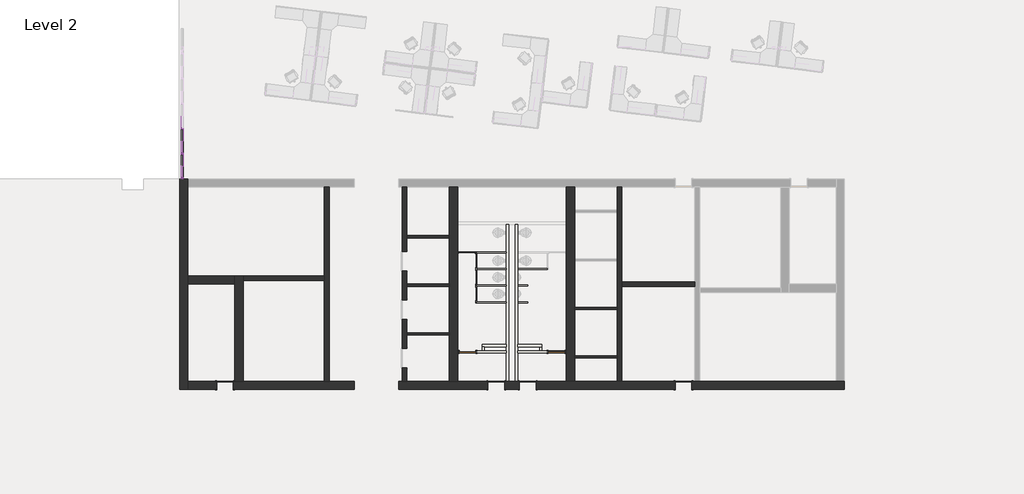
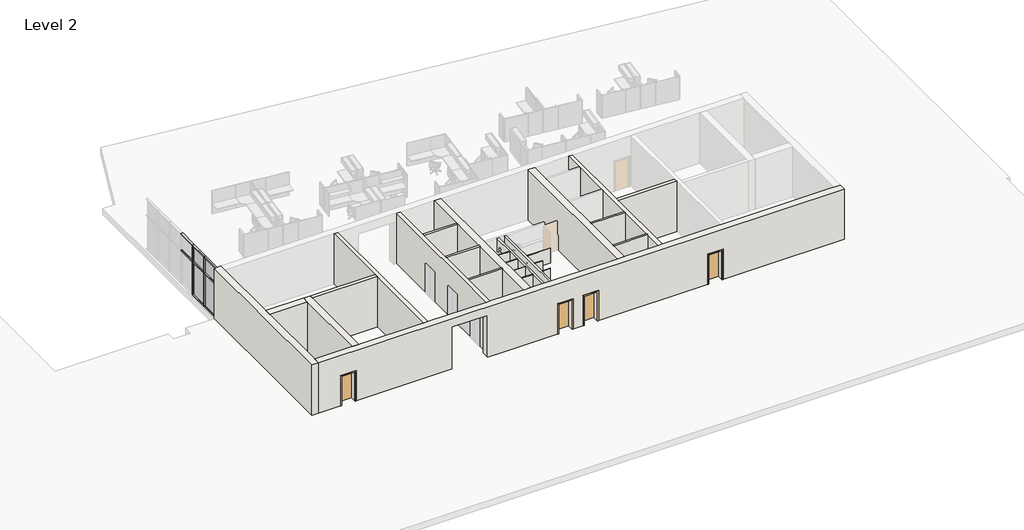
# One storey, part 1 of 7: 33 walls, 14 members, 10 doors, 4 plates.
"""IFC4 building model written with IfcOpenShell, lengths in millimetres."""

from ifc_helpers import new_model, si_unit, frame, origin, place, context, project, spatial, polyline, outline, extrude, faceted_brep, transform, mapped, element, save
from components import door_3c99239a, door_aec9db07, door_a3eb833a, door_a1797ceb, toilet_partitions_2_10_251e7a51, door_871a7840, member_9597caa3, member_b2bde9e6, member_c64c2408, member_866a01fa, member_13474e0d, member_fbf8c6f0, member_d7472725, system_panel_glazed_7f340023, system_panel_glazed_f79f5f4b, system_panel_glazed_02b69887, system_panel_glazed_e5c5d69c

model = new_model("IFC4")

# Units and contexts
model_context = context("Model", 3, world=origin())
ifc_project = project(units=[si_unit("LENGTHUNIT", "METRE", prefix="MILLI")], contexts=[model_context])

# Site, building, storey
site = spatial("IfcSite", under=ifc_project)
building = spatial("IfcBuilding", under=site)
storey = spatial("IfcBuildingStorey", under=building, Name="Level 2", Elevation=3657.6)

# Doors
placement = place(None, origin())
door_shape = door_3c99239a(model_context)
element("IfcDoor", 1, ObjectType="Single-Flush : 36\" x 84\"", at=placement, inside=storey, context=model_context, shape_type="MappedRepresentation", body=[
    mapped(door_shape, transform((-30700.0713641, -14594.8103492, 3657.6), x_axis=(1.0, 0.0, 0.0), y_axis=(0.0, 1.0, 0.0), z_axis=(0.0, 0.0, 1.0))),
])
element("IfcDoor", 2, ObjectType="Single-Flush : 36\" x 84\"", at=placement, inside=storey, context=model_context, shape_type="MappedRepresentation", body=[
    mapped(door_shape, transform((-5525.0427926, -14594.8103492, 3657.6), x_axis=(1.0, 0.0, 0.0), y_axis=(0.0, 1.0, 0.0), z_axis=(0.0, 0.0, 1.0))),
])
element("IfcDoor", 3, ObjectType="Single-Flush : 36\" x 84\"", at=placement, inside=storey, context=model_context, shape_type="MappedRepresentation", body=[
    mapped(door_shape, transform((-15804.7856498, -14594.8103492, 3657.6), x_axis=(1.0, 0.0, 0.0), y_axis=(0.0, 1.0, 0.0), z_axis=(0.0, 0.0, 1.0))),
])
door_2_shape = door_aec9db07(model_context)
element("IfcDoor", 4, ObjectType="Single-Flush : 36\" x 84\"", at=placement, inside=storey, context=model_context, shape_type="MappedRepresentation", body=[
    mapped(door_2_shape, transform((-14077.5856498, -14594.8103492, 3657.6), x_axis=(-1.0, 0.0, 0.0), y_axis=(0.0, -1.0, 0.0), z_axis=(0.0, 0.0, 1.0))),
])
door_3_shape = door_a3eb833a(model_context)
element("IfcDoor", 5, ObjectType="Single-Flush : 36\" x 84\"", at=placement, inside=storey, context=model_context, shape_type="MappedRepresentation", body=[
    mapped(door_3_shape, transform((-12487.8428559, -12753.3103492, 3657.6), x_axis=(1.0, 0.0, 0.0), y_axis=(0.0, 1.0, 0.0), z_axis=(0.0, 0.0, 1.0))),
])
door_4_shape = door_a1797ceb(model_context)
element("IfcDoor", 6, ObjectType="Single-Flush : 36\" x 84\"", at=placement, inside=storey, context=model_context, shape_type="MappedRepresentation", body=[
    mapped(door_4_shape, transform((-17394.5284437, -12753.3103492, 3657.6), x_axis=(-1.0, 0.0, 0.0), y_axis=(0.0, -1.0, 0.0), z_axis=(0.0, 0.0, 1.0))),
])
toilet_partitions_2_10_shape = toilet_partitions_2_10_251e7a51(model_context)
element("IfcDoor", 7, ObjectType="toilet Partitions : 2'10", at=placement, inside=storey, context=model_context, shape_type="MappedRepresentation", body=[
    mapped(toilet_partitions_2_10_shape, transform((-17432.6284437, -7282.7853492, 3657.6), x_axis=(-1.0, 0.0, 0.0), y_axis=(0.0, -1.0, 0.0), z_axis=(0.0, 0.0, 1.0))),
])
door_5_shape = door_871a7840(model_context)
element("IfcDoor", 8, ObjectType="toilet Partitions : 2'5\"", at=placement, inside=storey, context=model_context, shape_type="MappedRepresentation", body=[
    mapped(door_5_shape, transform((-16896.9856498, -9568.7853492, 3657.6), x_axis=(0.0, -1.0, 0.0), y_axis=(1.0, 0.0, 0.0), z_axis=(0.0, 0.0, 1.0))),
])
element("IfcDoor", 9, ObjectType="toilet Partitions : 2'5\"", at=placement, inside=storey, context=model_context, shape_type="MappedRepresentation", body=[
    mapped(door_5_shape, transform((-16896.9856498, -7739.9853492, 3657.6), x_axis=(0.0, -1.0, 0.0), y_axis=(1.0, 0.0, 0.0), z_axis=(0.0, 0.0, 1.0))),
])
element("IfcDoor", 10, ObjectType="toilet Partitions : 2'5\"", at=placement, inside=storey, context=model_context, shape_type="MappedRepresentation", body=[
    mapped(door_5_shape, transform((-16896.9856498, -8654.3853492, 3657.6), x_axis=(0.0, -1.0, 0.0), y_axis=(1.0, 0.0, 0.0), z_axis=(0.0, 0.0, 1.0))),
])

# Members
member_shape = member_9597caa3(model_context)
element("IfcMember", 11, ObjectType="Rectangular Mullion : 2.5\" x 5\" rectangular", at=placement, inside=storey, context=model_context, shape_type="MappedRepresentation", body=[
    mapped(member_shape, transform((-33055.0142212, -486.5214603, 3721.1), x_axis=(0.0, -1.0, 0.0), y_axis=(-1.0, 0.0, 0.0), z_axis=(0.0, 0.0, -1.0))),
])
element("IfcMember", 12, ObjectType="Rectangular Mullion : 2.5\" x 5\" rectangular", at=placement, inside=storey, context=model_context, shape_type="MappedRepresentation", body=[
    mapped(member_shape, transform((-33055.0142212, -1863.7659048, 3721.1), x_axis=(0.0, -1.0, 0.0), y_axis=(-1.0, 0.0, 0.0), z_axis=(0.0, 0.0, -1.0))),
])
member_2_shape = member_b2bde9e6(model_context)
element("IfcMember", 13, ObjectType="Rectangular Mullion : 2.5\" x 5\" rectangular", at=placement, inside=storey, context=model_context, shape_type="MappedRepresentation", body=[
    mapped(member_2_shape, transform((-33055.0142212, -3241.0103492, 3721.1), x_axis=(0.0, -1.0, 0.0), y_axis=(-1.0, 0.0, 0.0), z_axis=(0.0, 0.0, -1.0))),
])
member_3_shape = member_c64c2408(model_context)
element("IfcMember", 14, ObjectType="Rectangular Mullion : 2.5\" x 5\" rectangular", at=placement, inside=storey, context=model_context, shape_type="MappedRepresentation", body=[
    mapped(member_3_shape, transform((-33055.0142212, -3241.0103492, 7315.2), x_axis=(0.0, 0.0, 1.0), y_axis=(-1.0, 0.0, 0.0), z_axis=(0.0, -1.0, 0.0))),
])
element("IfcMember", 15, ObjectType="Rectangular Mullion : 2.5\" x 5\" rectangular", at=placement, inside=storey, context=model_context, shape_type="MappedRepresentation", body=[
    mapped(member_3_shape, transform((-33055.0142212, -486.5214603, 7315.2), x_axis=(0.0, 0.0, 1.0), y_axis=(-1.0, 0.0, 0.0), z_axis=(0.0, -1.0, 0.0))),
])
element("IfcMember", 16, ObjectType="Rectangular Mullion : 2.5\" x 5\" rectangular", at=placement, inside=storey, context=model_context, shape_type="MappedRepresentation", body=[
    mapped(member_3_shape, transform((-33055.0142212, -1863.7659048, 7315.2), x_axis=(0.0, 0.0, 1.0), y_axis=(-1.0, 0.0, 0.0), z_axis=(0.0, -1.0, 0.0))),
])
element("IfcMember", 17, ObjectType="Rectangular Mullion : 2.5\" x 5\" rectangular", at=placement, inside=storey, context=model_context, shape_type="MappedRepresentation", body=[
    mapped(member_3_shape, transform((-33055.0142212, -486.5214603, 3657.6), x_axis=(0.0, 0.0, -1.0), y_axis=(-1.0, 0.0, 0.0), z_axis=(0.0, 1.0, 0.0))),
])
element("IfcMember", 18, ObjectType="Rectangular Mullion : 2.5\" x 5\" rectangular", at=placement, inside=storey, context=model_context, shape_type="MappedRepresentation", body=[
    mapped(member_3_shape, transform((-33055.0142212, -1863.7659048, 3657.6), x_axis=(0.0, 0.0, -1.0), y_axis=(-1.0, 0.0, 0.0), z_axis=(0.0, 1.0, 0.0))),
])
member_4_shape = member_866a01fa(model_context)
element("IfcMember", 19, ObjectType="Rectangular Mullion : 2.5\" x 5\" rectangular", at=placement, inside=storey, context=model_context, shape_type="MappedRepresentation", body=[
    mapped(member_4_shape, transform((-33055.0142212, -486.5214603, 6127.75), x_axis=(0.0, -1.0, 0.0), y_axis=(-1.0, 0.0, 0.0), z_axis=(0.0, 0.0, -1.0))),
])
element("IfcMember", 20, ObjectType="Rectangular Mullion : 2.5\" x 5\" rectangular", at=placement, inside=storey, context=model_context, shape_type="MappedRepresentation", body=[
    mapped(member_4_shape, transform((-33055.0142212, -1863.7659048, 6127.75), x_axis=(0.0, -1.0, 0.0), y_axis=(-1.0, 0.0, 0.0), z_axis=(0.0, 0.0, -1.0))),
])
member_5_shape = member_13474e0d(model_context)
element("IfcMember", 21, ObjectType="Rectangular Mullion : 2.5\" x 5\" rectangular", at=placement, inside=storey, context=model_context, shape_type="MappedRepresentation", body=[
    mapped(member_5_shape, transform((-33055.0142212, -486.5214603, 6096.0), x_axis=(0.0, 0.0, 1.0), y_axis=(-1.0, 0.0, 0.0), z_axis=(0.0, -1.0, 0.0))),
])
element("IfcMember", 22, ObjectType="Rectangular Mullion : 2.5\" x 5\" rectangular", at=placement, inside=storey, context=model_context, shape_type="MappedRepresentation", body=[
    mapped(member_5_shape, transform((-33055.0142212, -1863.7659048, 6096.0), x_axis=(0.0, 0.0, 1.0), y_axis=(-1.0, 0.0, 0.0), z_axis=(0.0, -1.0, 0.0))),
])
member_6_shape = member_fbf8c6f0(model_context)
element("IfcMember", 23, ObjectType="Rectangular Mullion : 2.5\" x 5\" rectangular", at=placement, inside=storey, context=model_context, shape_type="MappedRepresentation", body=[
    mapped(member_6_shape, transform((-33055.0142212, -3177.5103492, 6096.0), x_axis=(0.0, 0.0, 1.0), y_axis=(-1.0, 0.0, 0.0), z_axis=(0.0, -1.0, 0.0))),
])
member_7_shape = member_d7472725(model_context)
element("IfcMember", 24, ObjectType="Rectangular Mullion : 2.5\" x 5\" rectangular", at=placement, inside=storey, context=model_context, shape_type="MappedRepresentation", body=[
    mapped(member_7_shape, transform((-33055.0142212, -3241.0103492, 6096.0), x_axis=(0.0, -1.0, 0.0), y_axis=(-1.0, 0.0, 0.0), z_axis=(0.0, 0.0, -1.0))),
])

# Plates
system_panel_glazed_shape = system_panel_glazed_7f340023(model_context)
element("IfcPlate", 25, ObjectType="System Panel : Glazed", at=placement, inside=storey, context=model_context, shape_type="MappedRepresentation", body=[
    mapped(system_panel_glazed_shape, transform((-33055.0142212, -2536.513127, 3721.1), x_axis=(0.0, -1.0, 0.0), y_axis=(1.0, 0.0, 0.0), z_axis=(0.0, 0.0, 1.0))),
])
system_panel_glazed_2_shape = system_panel_glazed_f79f5f4b(model_context)
element("IfcPlate", 26, ObjectType="System Panel : Glazed", at=placement, inside=storey, context=model_context, shape_type="MappedRepresentation", body=[
    mapped(system_panel_glazed_2_shape, transform((-33055.0142212, -1175.1436825, 3721.1), x_axis=(0.0, -1.0, 0.0), y_axis=(1.0, 0.0, 0.0), z_axis=(0.0, 0.0, 1.0))),
])
system_panel_glazed_3_shape = system_panel_glazed_02b69887(model_context)
element("IfcPlate", 27, ObjectType="System Panel : Glazed", at=placement, inside=storey, context=model_context, shape_type="MappedRepresentation", body=[
    mapped(system_panel_glazed_3_shape, transform((-33055.0142212, -2536.513127, 6127.75), x_axis=(0.0, -1.0, 0.0), y_axis=(1.0, 0.0, 0.0), z_axis=(0.0, 0.0, 1.0))),
])
system_panel_glazed_4_shape = system_panel_glazed_e5c5d69c(model_context)
element("IfcPlate", 28, ObjectType="System Panel : Glazed", at=placement, inside=storey, context=model_context, shape_type="MappedRepresentation", body=[
    mapped(system_panel_glazed_4_shape, transform((-33055.0142212, -1175.1436825, 6127.75), x_axis=(0.0, -1.0, 0.0), y_axis=(1.0, 0.0, 0.0), z_axis=(0.0, 0.0, 1.0))),
])

# Walls
element("IfcWall", 29, ObjectType="Core-shaft 10\" Concrete", at=placement, inside=storey, context=model_context, shape_type="SweptSolid", body=[
    extrude(outline(polyline([(-14366.2103492, 7315.2), (-3698.2103492, 7315.2), (-3698.2103492, 3657.6), (-7222.4603492, 3657.6), (-7222.4603492, 5816.6), (-8301.9603492, 5816.6), (-8301.9603492, 3657.6), (-9889.4603492, 3657.6), (-9889.4603492, 5816.6), (-10968.9603492, 5816.6), (-10968.9603492, 3657.6), (-12556.4603492, 3657.6), (-12556.4603492, 5816.6), (-13635.9603492, 5816.6), (-13635.9603492, 3657.6), (-14366.2103492, 3657.6), (-14366.2103492, 7315.2)])), frame((-20979.1285069, 0.0, 0.0), z_axis=(1.0, 0.0, 0.0), x_axis=(0.0, 1.0, 0.0)), (0.0, 0.0, 1.0), 254.0),
])
element("IfcWall", 30, ObjectType="Core-shaft 10\" Concrete", at=placement, inside=storey, context=model_context, shape_type="Brep", body=[
    faceted_brep([(-24992.3285069, -14366.2103492, 3657.6), (-24992.3285069, -3698.2103492, 3657.6), (-24992.3285069, -3698.2103492, 7315.2), (-24992.3285069, -14366.2103492, 7315.2), (-25246.3285069, -14366.2103492, 3657.6), (-25246.3285069, -14366.2103492, 7315.2), (-25246.3285069, -8829.0103492, 7315.2), (-25246.3285069, -8575.0103492, 7315.2), (-25246.3285069, -3698.2103492, 7315.2), (-25246.3285069, -3698.2103492, 3657.6), (-25246.3285069, -8575.0103492, 3657.6), (-25246.3285069, -8829.0103492, 3657.6)], [[[0, 1, 2, 3]], [[4, 5, 6, 7, 8, 9, 10, 11]], [[1, 0, 4, 11, 10, 9]], [[3, 2, 8, 7, 6, 5]], [[0, 3, 5, 4]], [[2, 1, 9, 8]]]),
])
element("IfcWall", 31, ObjectType="Core-shaft 10\" Concrete", at=placement, inside=storey, context=model_context, shape_type="SweptSolid", body=[
    extrude(outline(polyline([(-25246.3285069, -8829.0103492), (-29709.4713641, -8829.0103492), (-29709.4713641, -8575.0103492), (-25246.3285069, -8575.0103492), (-25246.3285069, -8829.0103492)])), frame((0.0, 0.0, 3657.6), z_axis=(0.0, 0.0, 1.0), x_axis=(1.0, 0.0, 0.0)), (0.0, 0.0, 1.0), 3657.6),
])
element("IfcWall", 32, ObjectType="Core-shaft 10\" Concrete", at=placement, inside=storey, context=model_context, shape_type="SweptSolid", body=[
    extrude(outline(polyline([(-8903.2427926, -3698.2103492), (-8903.2427926, -14366.2103492), (-9157.2427926, -14366.2103492), (-9157.2427926, -3698.2103492), (-8903.2427926, -3698.2103492)])), frame((0.0, 0.0, 3657.6), z_axis=(0.0, 0.0, 1.0), x_axis=(1.0, 0.0, 0.0)), (0.0, 0.0, 1.0), 3657.6),
])
element("IfcWall", 33, ObjectType="Core-shaft 10\" Concrete", at=placement, inside=storey, context=model_context, shape_type="SweptSolid", body=[
    extrude(outline(polyline([(-8903.2427926, -8905.2103492), (-4890.0427926, -8905.2103492), (-4890.0427926, -9159.2103492), (-8903.2427926, -9159.2103492), (-8903.2427926, -8905.2103492)])), frame((0.0, 0.0, 3657.6), z_axis=(0.0, 0.0, 1.0), x_axis=(1.0, 0.0, 0.0)), (0.0, 0.0, 1.0), 3657.6),
])
element("IfcWall", 34, ObjectType="Core-shaft 18\" Concrete", at=placement, inside=storey, context=model_context, shape_type="Brep", body=[
    faceted_brep([(-14534.7856498, -14366.2103492, 5791.2), (-14534.7856498, -14366.2103492, 3657.6), (-15347.5856498, -14366.2103492, 3657.6), (-15347.5856498, -14366.2103492, 5791.2), (-16261.9856498, -14366.2103492, 5791.2), (-16261.9856498, -14366.2103492, 3657.6), (-17927.9284437, -14366.2103492, 3657.6), (-18385.1284437, -14366.2103492, 3657.6), (-20725.1285069, -14366.2103492, 3657.6), (-20979.1285069, -14366.2103492, 3657.6), (-21167.8142212, -14366.2103492, 3657.6), (-21167.8142212, -14366.2103492, 6705.6), (-23606.2142212, -14366.2103492, 6705.6), (-23606.2142212, -14366.2103492, 3657.6), (-24992.3285069, -14366.2103492, 3657.6), (-25246.3285069, -14366.2103492, 3657.6), (-29709.4713641, -14366.2103492, 3657.6), (-30166.6713641, -14366.2103492, 3657.6), (-30242.8713641, -14366.2103492, 3657.6), (-30242.8713641, -14366.2103492, 5791.2), (-31157.2713641, -14366.2103492, 5791.2), (-31157.2713641, -14366.2103492, 3657.6), (-32750.2142212, -14366.2103492, 3657.6), (-32750.2142212, -14366.2103492, 7315.2), (-30166.6713641, -14366.2103492, 7315.2), (-29709.4713641, -14366.2103492, 7315.2), (-25246.3285069, -14366.2103492, 7315.2), (-24992.3285069, -14366.2103492, 7315.2), (-20979.1285069, -14366.2103492, 7315.2), (-20725.1285069, -14366.2103492, 7315.2), (-18385.1284437, -14366.2103492, 7315.2), (-17927.9284437, -14366.2103492, 7315.2), (-11954.4428559, -14366.2103492, 7315.2), (-11497.2428559, -14366.2103492, 7315.2), (-9157.2427926, -14366.2103492, 7315.2), (-8903.2427926, -14366.2103492, 7315.2), (-4890.0427926, -14366.2103492, 7315.2), (-4636.0427926, -14366.2103492, 7315.2), (2867.8429217, -14366.2103492, 7315.2), (3325.0429217, -14366.2103492, 7315.2), (3325.0429217, -14366.2103492, 3657.6), (2867.8429217, -14366.2103492, 3657.6), (-4636.0427926, -14366.2103492, 3657.6), (-4890.0427926, -14366.2103492, 3657.6), (-5067.8427926, -14366.2103492, 3657.6), (-5067.8427926, -14366.2103492, 5791.2), (-5982.2427926, -14366.2103492, 5791.2), (-5982.2427926, -14366.2103492, 3657.6), (-8903.2427926, -14366.2103492, 3657.6), (-9157.2427926, -14366.2103492, 3657.6), (-11497.2428559, -14366.2103492, 3657.6), (-11954.4428559, -14366.2103492, 3657.6), (-13620.3856498, -14366.2103492, 3657.6), (-13620.3856498, -14366.2103492, 5791.2), (-15347.5856498, -14823.4103492, 3657.6), (-14534.7856498, -14823.4103492, 3657.6), (-14534.7856498, -14823.4103492, 5791.2), (-13620.3856498, -14823.4103492, 5791.2), (-13620.3856498, -14823.4103492, 3657.6), (-5982.2427926, -14823.4103492, 3657.6), (-5982.2427926, -14823.4103492, 5791.2), (-5067.8427926, -14823.4103492, 5791.2), (-5067.8427926, -14823.4103492, 3657.6), (3325.0429217, -14823.4103492, 3657.6), (3325.0429217, -14823.4103492, 7315.2), (-32750.2142212, -14823.4103492, 7315.2), (-32750.2142212, -14823.4103492, 3657.6), (-31157.2713641, -14823.4103492, 3657.6), (-31157.2713641, -14823.4103492, 5791.2), (-30242.8713641, -14823.4103492, 5791.2), (-30242.8713641, -14823.4103492, 3657.6), (-23606.2142212, -14823.4103492, 3657.6), (-23606.2142212, -14823.4103492, 6705.6), (-21167.8142212, -14823.4103492, 6705.6), (-21167.8142212, -14823.4103492, 3657.6), (-16261.9856498, -14823.4103492, 3657.6), (-16261.9856498, -14823.4103492, 5791.2), (-15347.5856498, -14823.4103492, 5791.2)], [[[0, 1, 2, 3, 4, 5, 6, 7, 8, 9, 10, 11, 12, 13, 14, 15, 16, 17, 18, 19, 20, 21, 22, 23, 24, 25, 26, 27, 28, 29, 30, 31, 32, 33, 34, 35, 36, 37, 38, 39, 40, 41, 42, 43, 44, 45, 46, 47, 48, 49, 50, 51, 52, 53]], [[54, 55, 56, 57, 58, 59, 60, 61, 62, 63, 64, 65, 66, 67, 68, 69, 70, 71, 72, 73, 74, 75, 76, 77]], [[67, 66, 22, 21]], [[71, 70, 18, 17, 16, 15, 14, 13]], [[63, 62, 44, 43, 42, 41, 40]], [[75, 74, 10, 9, 8, 7, 6, 5]], [[2, 1, 55, 54]], [[52, 51, 50, 49, 48, 47, 59, 58]], [[39, 38, 37, 36, 35, 34, 33, 32, 31, 30, 29, 28, 27, 26, 25, 24, 23, 65, 64]], [[11, 73, 72, 12]], [[73, 11, 10, 74]], [[12, 72, 71, 13]], [[19, 18, 70, 69]], [[20, 19, 69, 68]], [[21, 20, 68, 67]], [[45, 44, 62, 61]], [[46, 45, 61, 60]], [[47, 46, 60, 59]], [[40, 39, 64, 63]], [[23, 22, 66, 65]], [[3, 2, 54, 77]], [[4, 3, 77, 76]], [[5, 4, 76, 75]], [[56, 55, 1, 0]], [[57, 56, 0, 53]], [[58, 57, 53, 52]]]),
])
element("IfcWall", 35, ObjectType="Core-shaft 18\" Concrete", at=placement, inside=storey, context=model_context, shape_type="Brep", body=[
    faceted_brep([(-32750.2142212, -14823.4103492, 3657.6), (-32750.2142212, -14366.2103492, 3657.6), (-32750.2142212, -9032.2103492, 3657.6), (-32750.2142212, -8575.0103492, 3657.6), (-32750.2142212, -3698.2103492, 3657.6), (-32750.2142212, -3241.0103492, 3657.6), (-32750.2142212, -3241.0103492, 7315.2), (-32750.2142212, -3698.2103492, 7315.2), (-32750.2142212, -8575.0103492, 7315.2), (-32750.2142212, -9032.2103492, 7315.2), (-32750.2142212, -14366.2103492, 7315.2), (-32750.2142212, -14823.4103492, 7315.2), (-33207.4142212, -14823.4103492, 3657.6), (-33207.4142212, -14823.4103492, 7315.2), (-33207.4142212, -3241.0103492, 7315.2), (-33207.4142212, -3241.0103492, 3657.6)], [[[0, 1, 2, 3, 4, 5, 6, 7, 8, 9, 10, 11]], [[12, 13, 14, 15]], [[5, 4, 3, 2, 1, 0, 12, 15]], [[11, 10, 9, 8, 7, 6, 14, 13]], [[0, 11, 13, 12]], [[6, 5, 15, 14]]]),
])
element("IfcWall", 36, ObjectType="Core-shaft 18\" Concrete", at=placement, inside=storey, context=model_context, shape_type="SweptSolid", body=[
    extrude(outline(polyline([(-18385.1284437, -14366.2103492), (-18385.1284437, -3698.2103492), (-17927.9284437, -3698.2103492), (-17927.9284437, -14366.2103492), (-18385.1284437, -14366.2103492)])), frame((0.0, 0.0, 3657.6), z_axis=(0.0, 0.0, 1.0), x_axis=(1.0, 0.0, 0.0)), (0.0, 0.0, 1.0), 3657.6),
])
element("IfcWall", 37, ObjectType="Core-shaft 18\" Concrete", at=placement, inside=storey, context=model_context, shape_type="Brep", body=[
    faceted_brep([(-29709.4713641, -14366.2103492, 3657.6), (-29709.4713641, -8829.0103492, 3657.6), (-29709.4713641, -8575.0103492, 3657.6), (-29709.4713641, -8575.0103492, 7315.2), (-29709.4713641, -8829.0103492, 7315.2), (-29709.4713641, -14366.2103492, 7315.2), (-30166.6713641, -14366.2103492, 3657.6), (-30166.6713641, -14366.2103492, 7315.2), (-30166.6713641, -9032.2103492, 7315.2), (-30166.6713641, -8575.0103492, 7315.2), (-30166.6713641, -8575.0103492, 3657.6), (-30166.6713641, -9032.2103492, 3657.6)], [[[0, 1, 2, 3, 4, 5]], [[6, 7, 8, 9, 10, 11]], [[2, 1, 0, 6, 11, 10]], [[5, 4, 3, 9, 8, 7]], [[3, 2, 10, 9]], [[0, 5, 7, 6]]]),
])
element("IfcWall", 38, ObjectType="Core-shaft 18\" Concrete", at=placement, inside=storey, context=model_context, shape_type="SweptSolid", body=[
    extrude(outline(polyline([(-32750.2142212, -8575.0103492), (-30166.6713641, -8575.0103492), (-30166.6713641, -9032.2103492), (-32750.2142212, -9032.2103492), (-32750.2142212, -8575.0103492)])), frame((0.0, 0.0, 3657.6), z_axis=(0.0, 0.0, 1.0), x_axis=(1.0, 0.0, 0.0)), (0.0, 0.0, 1.0), 3657.6),
])
element("IfcWall", 39, ObjectType="Core-shaft 18\" Concrete", at=placement, inside=storey, context=model_context, shape_type="SweptSolid", body=[
    extrude(outline(polyline([(-11954.4428559, -14366.2103492), (-11954.4428559, -3698.2103492), (-11497.2428559, -3698.2103492), (-11497.2428559, -14366.2103492), (-11954.4428559, -14366.2103492)])), frame((0.0, 0.0, 3657.6), z_axis=(0.0, 0.0, 1.0), x_axis=(1.0, 0.0, 0.0)), (0.0, 0.0, 1.0), 3657.6),
])
element("IfcWall", 40, ObjectType="Generic - 5\"", at=placement, inside=storey, context=model_context, shape_type="SweptSolid", body=[
    extrude(outline(polyline([(-18385.1284437, -11826.2103492), (-20725.1285069, -11826.2103492), (-20725.1285069, -11699.2103492), (-18385.1284437, -11699.2103492), (-18385.1284437, -11826.2103492)])), frame((0.0, 0.0, 3657.6), z_axis=(0.0, 0.0, 1.0), x_axis=(1.0, 0.0, 0.0)), (0.0, 0.0, 1.0), 3657.6),
])
element("IfcWall", 41, ObjectType="Generic - 5\"", at=placement, inside=storey, context=model_context, shape_type="SweptSolid", body=[
    extrude(outline(polyline([(-18385.1284437, -9159.2103492), (-20725.1285069, -9159.2103492), (-20725.1285069, -9032.2103492), (-18385.1284437, -9032.2103492), (-18385.1284437, -9159.2103492)])), frame((0.0, 0.0, 3657.6), z_axis=(0.0, 0.0, 1.0), x_axis=(1.0, 0.0, 0.0)), (0.0, 0.0, 1.0), 3657.6),
])
element("IfcWall", 42, ObjectType="Generic - 5\"", at=placement, inside=storey, context=model_context, shape_type="SweptSolid", body=[
    extrude(outline(polyline([(-18385.1284437, -6492.2103492), (-20725.1285069, -6492.2103492), (-20725.1285069, -6365.2103492), (-18385.1284437, -6365.2103492), (-18385.1284437, -6492.2103492)])), frame((0.0, 0.0, 3657.6), z_axis=(0.0, 0.0, 1.0), x_axis=(1.0, 0.0, 0.0)), (0.0, 0.0, 1.0), 3657.6),
])
element("IfcWall", 43, ObjectType="Generic - 5\"", at=placement, inside=storey, context=model_context, shape_type="SweptSolid", body=[
    extrude(outline(polyline([(-11497.2428559, -10302.2103492), (-9157.2427926, -10302.2103492), (-9157.2427926, -10429.2103492), (-11497.2428559, -10429.2103492), (-11497.2428559, -10302.2103492)])), frame((0.0, 0.0, 3657.6), z_axis=(0.0, 0.0, 1.0), x_axis=(1.0, 0.0, 0.0)), (0.0, 0.0, 1.0), 3657.6),
])
element("IfcWall", 44, ObjectType="Generic - 5\"", at=placement, inside=storey, context=model_context, shape_type="SweptSolid", body=[
    extrude(outline(polyline([(-11497.2428559, -12969.2103492), (-9157.2427926, -12969.2103492), (-9157.2427926, -13096.2103492), (-11497.2428559, -13096.2103492), (-11497.2428559, -12969.2103492)])), frame((0.0, 0.0, 3657.6), z_axis=(0.0, 0.0, 1.0), x_axis=(1.0, 0.0, 0.0)), (0.0, 0.0, 1.0), 3657.6),
])
element("IfcWall", 45, ObjectType="Interior - Generic - 5\"", at=placement, inside=storey, context=model_context, shape_type="Brep", body=[
    faceted_brep([(-15131.6856498, -14366.2103492, 3657.6), (-15131.6856498, -5742.9103492, 3657.6), (-15131.6856498, -5742.9103492, 4724.4), (-15131.6856498, -14366.2103492, 4724.4), (-15258.6856498, -14366.2103492, 3657.6), (-15258.6856498, -14366.2103492, 4724.4), (-15258.6856498, -12816.8103492, 4724.4), (-15258.6856498, -12689.8103492, 4724.4), (-15258.6856498, -12480.2603492, 4724.4), (-15258.6856498, -12353.2603492, 4724.4), (-15258.6856498, -10051.3853492, 4724.4), (-15258.6856498, -10000.5853492, 4724.4), (-15258.6856498, -9136.9853492, 4724.4), (-15258.6856498, -9086.1853492, 4724.4), (-15258.6856498, -8222.5853492, 4724.4), (-15258.6856498, -8171.7853492, 4724.4), (-15258.6856498, -7308.1853492, 4724.4), (-15258.6856498, -7257.3853492, 4724.4), (-15258.6856498, -5742.9103492, 4724.4), (-15258.6856498, -5742.9103492, 3657.6), (-15258.6856498, -7257.3853492, 3657.6), (-15258.6856498, -7308.1853492, 3657.6), (-15258.6856498, -8171.7853492, 3657.6), (-15258.6856498, -8222.5853492, 3657.6), (-15258.6856498, -9086.1853492, 3657.6), (-15258.6856498, -9136.9853492, 3657.6), (-15258.6856498, -10000.5853492, 3657.6), (-15258.6856498, -10051.3853492, 3657.6), (-15258.6856498, -12353.2603492, 3657.6), (-15258.6856498, -12480.2603492, 3657.6), (-15258.6856498, -12689.8103492, 3657.6), (-15258.6856498, -12816.8103492, 3657.6)], [[[0, 1, 2, 3]], [[4, 5, 6, 7, 8, 9, 10, 11, 12, 13, 14, 15, 16, 17, 18, 19, 20, 21, 22, 23, 24, 25, 26, 27, 28, 29, 30, 31]], [[1, 0, 4, 31, 30, 29, 28, 27, 26, 25, 24, 23, 22, 21, 20, 19]], [[3, 2, 18, 17, 16, 15, 14, 13, 12, 11, 10, 9, 8, 7, 6, 5]], [[0, 3, 5, 4]], [[2, 1, 19, 18]]]),
])
element("IfcWall", 46, ObjectType="Interior - Generic - 5\"", at=placement, inside=storey, context=model_context, shape_type="Brep", body=[
    faceted_brep([(-14623.6856498, -14366.2103492, 3657.6), (-14623.6856498, -12816.8103492, 3657.6), (-14623.6856498, -12689.8103492, 3657.6), (-14623.6856498, -12480.2603492, 3657.6), (-14623.6856498, -12353.2603492, 3657.6), (-14623.6856498, -10051.3853492, 3657.6), (-14623.6856498, -10000.5853492, 3657.6), (-14623.6856498, -9136.9853492, 3657.6), (-14623.6856498, -9086.1853492, 3657.6), (-14623.6856498, -8222.5853492, 3657.6), (-14623.6856498, -8171.7853492, 3657.6), (-14623.6856498, -7308.1853492, 3657.6), (-14623.6856498, -7257.3853492, 3657.6), (-14623.6856498, -5742.9103492, 3657.6), (-14623.6856498, -5742.9103492, 4724.4), (-14623.6856498, -7257.3853492, 4724.4), (-14623.6856498, -7308.1853492, 4724.4), (-14623.6856498, -8171.7853492, 4724.4), (-14623.6856498, -8222.5853492, 4724.4), (-14623.6856498, -9086.1853492, 4724.4), (-14623.6856498, -9136.9853492, 4724.4), (-14623.6856498, -10000.5853492, 4724.4), (-14623.6856498, -10051.3853492, 4724.4), (-14623.6856498, -12353.2603492, 4724.4), (-14623.6856498, -12480.2603492, 4724.4), (-14623.6856498, -12689.8103492, 4724.4), (-14623.6856498, -12816.8103492, 4724.4), (-14623.6856498, -14366.2103492, 4724.4), (-14750.6856498, -14366.2103492, 3657.6), (-14750.6856498, -14366.2103492, 4724.4), (-14750.6856498, -5742.9103492, 4724.4), (-14750.6856498, -5742.9103492, 3657.6)], [[[0, 1, 2, 3, 4, 5, 6, 7, 8, 9, 10, 11, 12, 13, 14, 15, 16, 17, 18, 19, 20, 21, 22, 23, 24, 25, 26, 27]], [[28, 29, 30, 31]], [[13, 12, 11, 10, 9, 8, 7, 6, 5, 4, 3, 2, 1, 0, 28, 31]], [[27, 26, 25, 24, 23, 22, 21, 20, 19, 18, 17, 16, 15, 14, 30, 29]], [[0, 27, 29, 28]], [[14, 13, 31, 30]]]),
])
element("IfcWall", 47, ObjectType="Interior - Generic - 5\"", at=placement, inside=storey, context=model_context, shape_type="Brep", body=[
    faceted_brep([(-14623.6856498, -12816.8103492, 3657.6), (-11954.4428559, -12816.8103492, 3657.6), (-11954.4428559, -12816.8103492, 4724.4), (-14623.6856498, -12816.8103492, 4724.4), (-14623.6856498, -12689.8103492, 3657.6), (-14623.6856498, -12689.8103492, 4724.4), (-13429.8856498, -12689.8103492, 4724.4), (-13302.8856498, -12689.8103492, 4724.4), (-11954.4428559, -12689.8103492, 4724.4), (-11954.4428559, -12689.8103492, 3657.6), (-13302.8856498, -12689.8103492, 3657.6), (-13429.8856498, -12689.8103492, 3657.6)], [[[0, 1, 2, 3]], [[4, 5, 6, 7, 8, 9, 10, 11]], [[1, 0, 4, 11, 10, 9]], [[3, 2, 8, 7, 6, 5]], [[0, 3, 5, 4]], [[2, 1, 9, 8]]]),
])
element("IfcWall", 48, ObjectType="Interior - Generic - 5\"", at=placement, inside=storey, context=model_context, shape_type="Brep", body=[
    faceted_brep([(-17927.9284437, -12689.8103492, 3657.6), (-17927.9284437, -12689.8103492, 4724.4), (-17851.7284437, -12689.8103492, 4724.4), (-17851.7284437, -12689.8103492, 3657.6), (-17927.9284437, -12816.8103492, 4724.4), (-17927.9284437, -12816.8103492, 3657.6), (-17851.7284437, -12816.8103492, 3657.6), (-17851.7284437, -12816.8103492, 4724.4)], [[[0, 1, 2, 3]], [[4, 5, 6, 7]], [[5, 0, 3, 6]], [[1, 4, 7, 2]], [[3, 2, 7, 6]], [[1, 0, 5, 4]]]),
    faceted_brep([(-15258.6856498, -12689.8103492, 4724.4), (-15258.6856498, -12689.8103492, 3657.6), (-16452.4856498, -12689.8103492, 3657.6), (-16579.4856498, -12689.8103492, 3657.6), (-16937.3284437, -12689.8103492, 3657.6), (-16937.3284437, -12689.8103492, 4724.4), (-16579.4856498, -12689.8103492, 4724.4), (-16452.4856498, -12689.8103492, 4724.4), (-15258.6856498, -12816.8103492, 3657.6), (-15258.6856498, -12816.8103492, 4724.4), (-16937.3284437, -12816.8103492, 4724.4), (-16937.3284437, -12816.8103492, 3657.6)], [[[0, 1, 2, 3, 4, 5, 6, 7]], [[8, 9, 10, 11]], [[1, 8, 11, 4, 3, 2]], [[9, 0, 7, 6, 5, 10]], [[5, 4, 11, 10]], [[1, 0, 9, 8]]]),
])
element("IfcWall", 49, ObjectType="Interior - Generic - 5\"", at=placement, inside=storey, context=model_context, shape_type="Brep", body=[
    faceted_brep([(-15258.6856498, -12353.2603492, 3657.6), (-16579.4856498, -12353.2603492, 3657.6), (-16579.4856498, -12353.2603492, 4724.4), (-15258.6856498, -12353.2603492, 4724.4), (-15258.6856498, -12480.2603492, 3657.6), (-15258.6856498, -12480.2603492, 4724.4), (-16452.4856498, -12480.2603492, 4724.4), (-16579.4856498, -12480.2603492, 4724.4), (-16579.4856498, -12480.2603492, 3657.6), (-16452.4856498, -12480.2603492, 3657.6)], [[[0, 1, 2, 3]], [[4, 5, 6, 7, 8, 9]], [[1, 0, 4, 9, 8]], [[3, 2, 7, 6, 5]], [[2, 1, 8, 7]], [[0, 3, 5, 4]]]),
])
element("IfcWall", 50, ObjectType="Interior - Generic - 5\"", at=placement, inside=storey, context=model_context, shape_type="SweptSolid", body=[
    extrude(outline(polyline([(-16579.4856498, -12689.8103492), (-16579.4856498, -12480.2603492), (-16452.4856498, -12480.2603492), (-16452.4856498, -12689.8103492), (-16579.4856498, -12689.8103492)])), frame((0.0, 0.0, 3657.6), z_axis=(0.0, 0.0, 1.0), x_axis=(1.0, 0.0, 0.0)), (0.0, 0.0, 1.0), 1066.8),
])
element("IfcWall", 51, ObjectType="Interior - Generic - 5\"", at=placement, inside=storey, context=model_context, shape_type="Brep", body=[
    faceted_brep([(-11954.4428559, -12816.8103492, 3657.6), (-11954.4428559, -12816.8103492, 4724.4), (-12030.6428559, -12816.8103492, 4724.4), (-12030.6428559, -12816.8103492, 3657.6), (-11954.4428559, -12689.8103492, 4724.4), (-11954.4428559, -12689.8103492, 3657.6), (-12030.6428559, -12689.8103492, 3657.6), (-12030.6428559, -12689.8103492, 4724.4)], [[[0, 1, 2, 3]], [[4, 5, 6, 7]], [[5, 0, 3, 6]], [[1, 4, 7, 2]], [[3, 2, 7, 6]], [[1, 0, 5, 4]]]),
    faceted_brep([(-14623.6856498, -12816.8103492, 4724.4), (-14623.6856498, -12816.8103492, 3657.6), (-12945.0428559, -12816.8103492, 3657.6), (-12945.0428559, -12816.8103492, 4724.4), (-14623.6856498, -12689.8103492, 3657.6), (-14623.6856498, -12689.8103492, 4724.4), (-13429.8856498, -12689.8103492, 4724.4), (-13302.8856498, -12689.8103492, 4724.4), (-12945.0428559, -12689.8103492, 4724.4), (-12945.0428559, -12689.8103492, 3657.6), (-13302.8856498, -12689.8103492, 3657.6), (-13429.8856498, -12689.8103492, 3657.6)], [[[0, 1, 2, 3]], [[4, 5, 6, 7, 8, 9, 10, 11]], [[1, 4, 11, 10, 9, 2]], [[5, 0, 3, 8, 7, 6]], [[3, 2, 9, 8]], [[1, 0, 5, 4]]]),
])
element("IfcWall", 52, ObjectType="Interior - Generic - 5\"", at=placement, inside=storey, context=model_context, shape_type="Brep", body=[
    faceted_brep([(-14623.6856498, -12480.2603492, 3657.6), (-13429.8856498, -12480.2603492, 3657.6), (-13302.8856498, -12480.2603492, 3657.6), (-13302.8856498, -12480.2603492, 4724.4), (-13429.8856498, -12480.2603492, 4724.4), (-14623.6856498, -12480.2603492, 4724.4), (-14623.6856498, -12353.2603492, 3657.6), (-14623.6856498, -12353.2603492, 4724.4), (-13302.8856498, -12353.2603492, 4724.4), (-13302.8856498, -12353.2603492, 3657.6)], [[[0, 1, 2, 3, 4, 5]], [[6, 7, 8, 9]], [[2, 1, 0, 6, 9]], [[5, 4, 3, 8, 7]], [[3, 2, 9, 8]], [[0, 5, 7, 6]]]),
])
element("IfcWall", 53, ObjectType="Interior - Generic - 5\"", at=placement, inside=storey, context=model_context, shape_type="SweptSolid", body=[
    extrude(outline(polyline([(-13429.8856498, -12689.8103492), (-13429.8856498, -12480.2603492), (-13302.8856498, -12480.2603492), (-13302.8856498, -12689.8103492), (-13429.8856498, -12689.8103492)])), frame((0.0, 0.0, 3657.6), z_axis=(0.0, 0.0, 1.0), x_axis=(1.0, 0.0, 0.0)), (0.0, 0.0, 1.0), 1066.8),
])
element("IfcWall", 54, ObjectType="Toilet Partition", at=placement, inside=storey, context=model_context, shape_type="Brep", body=[
    faceted_brep([(-16871.5856498, -7308.1853492, 3657.6), (-16871.5856498, -7308.1853492, 4724.4), (-16871.5856498, -7371.6853492, 4724.4), (-16871.5856498, -7371.6853492, 3657.6), (-16922.3856498, -7308.1853492, 4724.4), (-16922.3856498, -7308.1853492, 3657.6), (-16922.3856498, -7371.6853492, 3657.6), (-16922.3856498, -7371.6853492, 4724.4)], [[[0, 1, 2, 3]], [[4, 5, 6, 7]], [[5, 0, 3, 6]], [[1, 4, 7, 2]], [[1, 0, 5, 4]], [[3, 2, 7, 6]]]),
    faceted_brep([(-16871.5856498, -9937.0853492, 3657.6), (-16871.5856498, -9937.0853492, 4724.4), (-16871.5856498, -10000.5853492, 4724.4), (-16871.5856498, -10051.3853492, 4724.4), (-16871.5856498, -10051.3853492, 3657.6), (-16871.5856498, -10000.5853492, 3657.6), (-16922.3856498, -9937.0853492, 4724.4), (-16922.3856498, -9937.0853492, 3657.6), (-16922.3856498, -10051.3853492, 3657.6), (-16922.3856498, -10051.3853492, 4724.4)], [[[0, 1, 2, 3, 4, 5]], [[6, 7, 8, 9]], [[7, 0, 5, 4, 8]], [[1, 6, 9, 3, 2]], [[1, 0, 7, 6]], [[4, 3, 9, 8]]]),
    faceted_brep([(-16871.5856498, -9200.4853492, 4724.4), (-16871.5856498, -9200.4853492, 3657.6), (-16871.5856498, -9136.9853492, 3657.6), (-16871.5856498, -9086.1853492, 3657.6), (-16871.5856498, -9022.6853492, 3657.6), (-16871.5856498, -9022.6853492, 4724.4), (-16871.5856498, -9086.1853492, 4724.4), (-16871.5856498, -9136.9853492, 4724.4), (-16922.3856498, -9200.4853492, 3657.6), (-16922.3856498, -9200.4853492, 4724.4), (-16922.3856498, -9022.6853492, 4724.4), (-16922.3856498, -9022.6853492, 3657.6)], [[[0, 1, 2, 3, 4, 5, 6, 7]], [[8, 9, 10, 11]], [[1, 8, 11, 4, 3, 2]], [[9, 0, 7, 6, 5, 10]], [[1, 0, 9, 8]], [[5, 4, 11, 10]]]),
    faceted_brep([(-16871.5856498, -8108.2853492, 3657.6), (-16871.5856498, -8108.2853492, 4724.4), (-16871.5856498, -8171.7853492, 4724.4), (-16871.5856498, -8222.5853492, 4724.4), (-16871.5856498, -8286.0853492, 4724.4), (-16871.5856498, -8286.0853492, 3657.6), (-16871.5856498, -8222.5853492, 3657.6), (-16871.5856498, -8171.7853492, 3657.6), (-16922.3856498, -8108.2853492, 4724.4), (-16922.3856498, -8108.2853492, 3657.6), (-16922.3856498, -8286.0853492, 3657.6), (-16922.3856498, -8286.0853492, 4724.4)], [[[0, 1, 2, 3, 4, 5, 6, 7]], [[8, 9, 10, 11]], [[9, 0, 7, 6, 5, 10]], [[1, 8, 11, 4, 3, 2]], [[1, 0, 9, 8]], [[5, 4, 11, 10]]]),
])
element("IfcWall", 55, ObjectType="Toilet Partition", at=placement, inside=storey, context=model_context, shape_type="Brep", body=[
    faceted_brep([(-17927.9284437, -7257.3853492, 3657.6), (-17927.9284437, -7257.3853492, 4724.4), (-17864.4284437, -7257.3853492, 4724.4), (-17864.4284437, -7257.3853492, 3657.6), (-17927.9284437, -7308.1853492, 4724.4), (-17927.9284437, -7308.1853492, 3657.6), (-17864.4284437, -7308.1853492, 3657.6), (-17864.4284437, -7308.1853492, 4724.4)], [[[0, 1, 2, 3]], [[4, 5, 6, 7]], [[5, 0, 3, 6]], [[1, 4, 7, 2]], [[3, 2, 7, 6]], [[1, 0, 5, 4]]]),
    faceted_brep([(-15258.6856498, -7257.3853492, 4724.4), (-15258.6856498, -7257.3853492, 3657.6), (-17000.8284437, -7257.3853492, 3657.6), (-17000.8284437, -7257.3853492, 4724.4), (-15258.6856498, -7308.1853492, 3657.6), (-15258.6856498, -7308.1853492, 4724.4), (-16871.5856498, -7308.1853492, 4724.4), (-16922.3856498, -7308.1853492, 4724.4), (-17000.8284437, -7308.1853492, 4724.4), (-17000.8284437, -7308.1853492, 3657.6), (-16922.3856498, -7308.1853492, 3657.6), (-16871.5856498, -7308.1853492, 3657.6)], [[[0, 1, 2, 3]], [[4, 5, 6, 7, 8, 9, 10, 11]], [[1, 4, 11, 10, 9, 2]], [[5, 0, 3, 8, 7, 6]], [[3, 2, 9, 8]], [[1, 0, 5, 4]]]),
])
element("IfcWall", 56, ObjectType="Toilet Partition", at=placement, inside=storey, context=model_context, shape_type="SweptSolid", body=[
    extrude(outline(polyline([(-16871.5856498, -10000.5853492), (-15258.6856498, -10000.5853492), (-15258.6856498, -10051.3853492), (-16871.5856498, -10051.3853492), (-16871.5856498, -10000.5853492)])), frame((0.0, 0.0, 3657.6), z_axis=(0.0, 0.0, 1.0), x_axis=(1.0, 0.0, 0.0)), (0.0, 0.0, 1.0), 1066.8),
])
element("IfcWall", 57, ObjectType="Toilet Partition", at=placement, inside=storey, context=model_context, shape_type="SweptSolid", body=[
    extrude(outline(polyline([(-16871.5856498, -8171.7853492), (-15258.6856498, -8171.7853492), (-15258.6856498, -8222.5853492), (-16871.5856498, -8222.5853492), (-16871.5856498, -8171.7853492)])), frame((0.0, 0.0, 3657.6), z_axis=(0.0, 0.0, 1.0), x_axis=(1.0, 0.0, 0.0)), (0.0, 0.0, 1.0), 1066.8),
])
element("IfcWall", 58, ObjectType="Toilet Partition", at=placement, inside=storey, context=model_context, shape_type="SweptSolid", body=[
    extrude(outline(polyline([(-14077.5856498, -10051.3853492), (-14623.6856498, -10051.3853492), (-14623.6856498, -10000.5853492), (-14077.5856498, -10000.5853492), (-14077.5856498, -10051.3853492)])), frame((0.0, 0.0, 3657.6), z_axis=(0.0, 0.0, 1.0), x_axis=(1.0, 0.0, 0.0)), (0.0, 0.0, 1.0), 1066.8),
])
element("IfcWall", 59, ObjectType="Toilet Partition", at=placement, inside=storey, context=model_context, shape_type="SweptSolid", body=[
    extrude(outline(polyline([(-13010.7856498, -8222.5853492), (-14623.6856498, -8222.5853492), (-14623.6856498, -8171.7853492), (-13010.7856498, -8171.7853492), (-13010.7856498, -8222.5853492)])), frame((0.0, 0.0, 3657.6), z_axis=(0.0, 0.0, 1.0), x_axis=(1.0, 0.0, 0.0)), (0.0, 0.0, 1.0), 1066.8),
])
element("IfcWall", 60, ObjectType="Toilet Partition", at=placement, inside=storey, context=model_context, shape_type="SweptSolid", body=[
    extrude(outline(polyline([(-16871.5856498, -9086.1853492), (-15258.6856498, -9086.1853492), (-15258.6856498, -9136.9853492), (-16871.5856498, -9136.9853492), (-16871.5856498, -9086.1853492)])), frame((0.0, 0.0, 3657.6), z_axis=(0.0, 0.0, 1.0), x_axis=(1.0, 0.0, 0.0)), (0.0, 0.0, 1.0), 1066.8),
])
element("IfcWall", 61, ObjectType="Toilet Partition", at=placement, inside=storey, context=model_context, shape_type="SweptSolid", body=[
    extrude(outline(polyline([(-14077.5856498, -9136.9853492), (-14623.6856498, -9136.9853492), (-14623.6856498, -9086.1853492), (-14077.5856498, -9086.1853492), (-14077.5856498, -9136.9853492)])), frame((0.0, 0.0, 3657.6), z_axis=(0.0, 0.0, 1.0), x_axis=(1.0, 0.0, 0.0)), (0.0, 0.0, 1.0), 1066.8),
])

save(model, "model.ifc")
